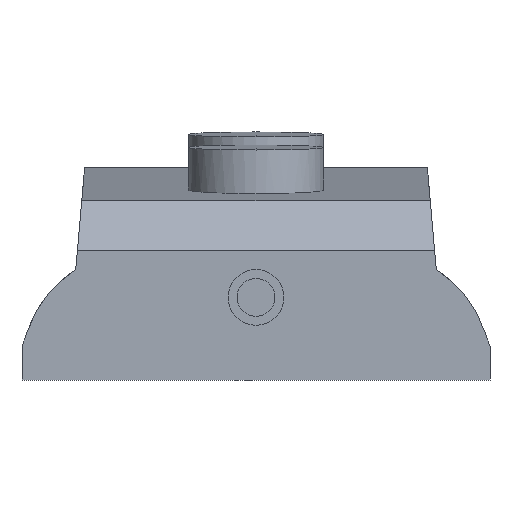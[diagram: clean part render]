
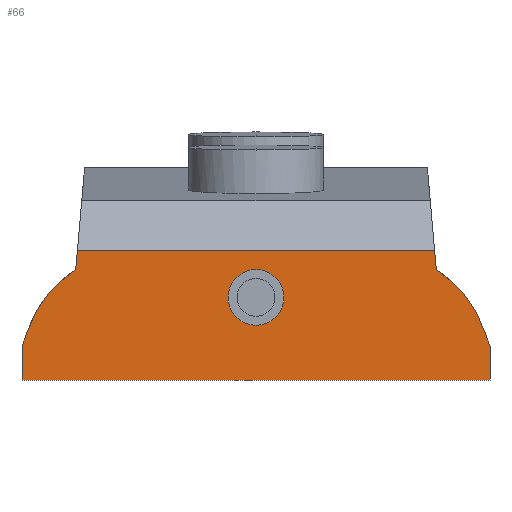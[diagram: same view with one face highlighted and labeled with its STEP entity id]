
A CAD part, front view. The second image highlights one B-rep face of the part: STEP entity #66.
In plain terms, the highlighted planar face has unit normal (0, -1, 0).
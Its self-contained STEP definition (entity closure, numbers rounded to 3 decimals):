
#66 = ADVANCED_FACE( '', ( #150, #151 ), #152, .F. );
#150 = FACE_BOUND( '', #257, .T. );
#151 = FACE_OUTER_BOUND( '', #258, .T. );
#152 = PLANE( '', #259 );
#257 = EDGE_LOOP( '', ( #386 ) );
#258 = EDGE_LOOP( '', ( #387, #388, #389, #390, #391, #392, #393, #394, #395, #396 ) );
#259 = AXIS2_PLACEMENT_3D( '', #397, #398, #399 );
#386 = ORIENTED_EDGE( '', *, *, #625, .T. );
#387 = ORIENTED_EDGE( '', *, *, #626, .T. );
#388 = ORIENTED_EDGE( '', *, *, #627, .F. );
#389 = ORIENTED_EDGE( '', *, *, #628, .T. );
#390 = ORIENTED_EDGE( '', *, *, #629, .T. );
#391 = ORIENTED_EDGE( '', *, *, #630, .T. );
#392 = ORIENTED_EDGE( '', *, *, #610, .F. );
#393 = ORIENTED_EDGE( '', *, *, #607, .T. );
#394 = ORIENTED_EDGE( '', *, *, #631, .T. );
#395 = ORIENTED_EDGE( '', *, *, #632, .F. );
#396 = ORIENTED_EDGE( '', *, *, #633, .F. );
#397 = CARTESIAN_POINT( '', ( 23.5, 0., 4.7 ) );
#398 = DIRECTION( '', ( 0., 1., 0. ) );
#399 = DIRECTION( '', ( 0., 0., 1. ) );
#607 = EDGE_CURVE( '', #716, #714, #717, .T. );
#610 = EDGE_CURVE( '', #716, #720, #721, .T. );
#625 = EDGE_CURVE( '', #746, #746, #747, .T. );
#626 = EDGE_CURVE( '', #748, #749, #750, .T. );
#627 = EDGE_CURVE( '', #751, #749, #752, .T. );
#628 = EDGE_CURVE( '', #751, #753, #754, .T. );
#629 = EDGE_CURVE( '', #753, #755, #756, .T. );
#630 = EDGE_CURVE( '', #755, #720, #757, .T. );
#631 = EDGE_CURVE( '', #714, #758, #759, .T. );
#632 = EDGE_CURVE( '', #760, #758, #761, .T. );
#633 = EDGE_CURVE( '', #748, #760, #762, .T. );
#714 = VERTEX_POINT( '', #865 );
#716 = VERTEX_POINT( '', #868 );
#717 = LINE( '', #869, #870 );
#720 = VERTEX_POINT( '', #874 );
#721 = CIRCLE( '', #875, 12. );
#746 = VERTEX_POINT( '', #909 );
#747 = CIRCLE( '', #910, 2.8 );
#748 = VERTEX_POINT( '', #911 );
#749 = VERTEX_POINT( '', #912 );
#750 = LINE( '', #913, #914 );
#751 = VERTEX_POINT( '', #915 );
#752 = CIRCLE( '', #916, 12. );
#753 = VERTEX_POINT( '', #917 );
#754 = LINE( '', #918, #919 );
#755 = VERTEX_POINT( '', #920 );
#756 = LINE( '', #921, #922 );
#757 = LINE( '', #923, #924 );
#758 = VERTEX_POINT( '', #925 );
#759 = LINE( '', #926, #927 );
#760 = VERTEX_POINT( '', #928 );
#761 = LINE( '', #929, #930 );
#762 = LINE( '', #931, #932 );
#865 = CARTESIAN_POINT( '', ( -23.5, 0., -4.916 ) );
#868 = CARTESIAN_POINT( '', ( -22.884, 0., -3.213 ) );
#869 = CARTESIAN_POINT( '', ( -22.884, 0., -3.213 ) );
#870 = VECTOR( '', #1054, 1000. );
#874 = CARTESIAN_POINT( '', ( -18.105, 0., 2.787 ) );
#875 = AXIS2_PLACEMENT_3D( '', #1056, #1057, #1058 );
#909 = CARTESIAN_POINT( '', ( 2.8, 0., 0. ) );
#910 = AXIS2_PLACEMENT_3D( '', #1074, #1075, #1076 );
#911 = CARTESIAN_POINT( '', ( 23.5, 0., -4.916 ) );
#912 = CARTESIAN_POINT( '', ( 22.884, 0., -3.213 ) );
#913 = CARTESIAN_POINT( '', ( 23.593, 0., -5.172 ) );
#914 = VECTOR( '', #1077, 1000. );
#915 = CARTESIAN_POINT( '', ( 18.105, 0., 2.787 ) );
#916 = AXIS2_PLACEMENT_3D( '', #1078, #1079, #1080 );
#917 = CARTESIAN_POINT( '', ( 17.937, 0., 4.7 ) );
#918 = CARTESIAN_POINT( '', ( 18.105, 0., 2.787 ) );
#919 = VECTOR( '', #1081, 1000. );
#920 = CARTESIAN_POINT( '', ( -17.937, 0., 4.7 ) );
#921 = CARTESIAN_POINT( '', ( 23.5, 0., 4.7 ) );
#922 = VECTOR( '', #1082, 1000. );
#923 = CARTESIAN_POINT( '', ( -17.21, 0., 13.011 ) );
#924 = VECTOR( '', #1083, 1000. );
#925 = CARTESIAN_POINT( '', ( -23.5, 0., -8.3 ) );
#926 = CARTESIAN_POINT( '', ( -23.5, 0., 4.7 ) );
#927 = VECTOR( '', #1084, 1000. );
#928 = CARTESIAN_POINT( '', ( 23.5, 0., -8.3 ) );
#929 = CARTESIAN_POINT( '', ( 23.5, 0., -8.3 ) );
#930 = VECTOR( '', #1085, 1000. );
#931 = CARTESIAN_POINT( '', ( 23.5, 0., 4.7 ) );
#932 = VECTOR( '', #1086, 1000. );
#1054 = DIRECTION( '', ( -0.34, 0., -0.94 ) );
#1056 = CARTESIAN_POINT( '', ( -11.6, 0., -7.297 ) );
#1057 = DIRECTION( '', ( 0., 1., 0. ) );
#1058 = DIRECTION( '', ( 1., 0., 0. ) );
#1074 = CARTESIAN_POINT( '', ( 0., 0., 0. ) );
#1075 = DIRECTION( '', ( 0., 1., 0. ) );
#1076 = DIRECTION( '', ( 1., 0., 0. ) );
#1077 = DIRECTION( '', ( -0.34, 0., 0.94 ) );
#1078 = CARTESIAN_POINT( '', ( 11.6, 0., -7.297 ) );
#1079 = DIRECTION( '', ( 0., 1., 0. ) );
#1080 = DIRECTION( '', ( 1., 0., 0. ) );
#1081 = DIRECTION( '', ( -0.087, 0., 0.996 ) );
#1082 = DIRECTION( '', ( -1., 0., 0. ) );
#1083 = DIRECTION( '', ( -0.087, 0., -0.996 ) );
#1084 = DIRECTION( '', ( 0., 0., -1. ) );
#1085 = DIRECTION( '', ( -1., 0., 0. ) );
#1086 = DIRECTION( '', ( 0., 0., -1. ) );
